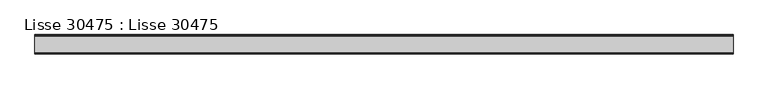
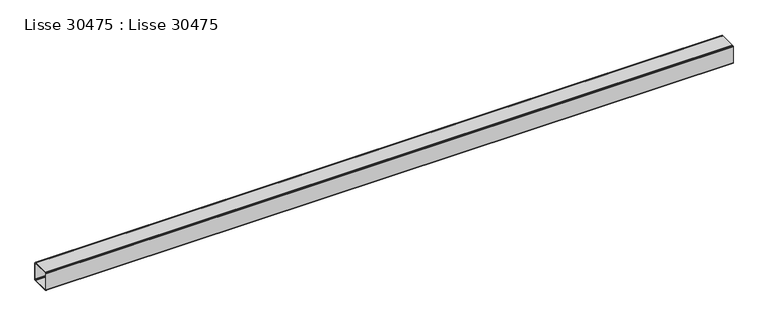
"""IFC4 building model written with IfcOpenShell, lengths in millimetres: beam geometry, Lisse 30475 : Lisse 30475."""

from ifc_helpers import new_model, si_unit, frame, origin, place, context, project, spatial, polyline, outline, extrude, source, transform, mapped, element, save


def lisse_30475_lisse_30475_9e5390a8(model_context):
    return source(origin(), model_context, "Body", "SweptSolid", [
        extrude(outline(polyline([(-19772.0, 8320.4153428), (-19684.0, 8320.4153428), (-19681.0, 8319.6114952), (-19678.8038476, 8317.4153428), (-19678.0, 8314.4153428), (-19678.0, 8226.4153428), (-19678.8038476, 8223.4153428), (-19681.0, 8221.2191903), (-19684.0, 8220.4153428), (-19772.0, 8220.4153428), (-19775.0, 8221.2191903), (-19777.1961524, 8223.4153428), (-19778.0, 8226.4153428), (-19778.0, 8314.4153428), (-19777.1961524, 8317.4153428), (-19775.0, 8319.6114952), (-19772.0, 8320.4153428)]), holes=[polyline([(-19774.0, 8312.4153428), (-19774.0, 8228.4153428), (-19773.4641016, 8226.4153428), (-19772.0, 8224.9512411), (-19770.0, 8224.4153428), (-19686.0, 8224.4153428), (-19684.0, 8224.9512411), (-19682.5358984, 8226.4153428), (-19682.0, 8228.4153428), (-19682.0, 8312.4153428), (-19682.5358984, 8314.4153428), (-19684.0, 8315.8794444), (-19686.0, 8316.4153428), (-19770.0, 8316.4153428), (-19772.0, 8315.8794444), (-19773.4641016, 8314.4153428), (-19774.0, 8312.4153428)])]), frame((24.9999999, 0.0, 0.0), z_axis=(1.0, 0.0, 0.0), x_axis=(0.0, 1.0, 0.0)), (0.0, 0.0, 1.0), 3612.5),
    ])


if __name__ == "__main__":
    model = new_model("IFC4")
    model_context = context("Model", 3, world=origin())
    ifc_project = project(units=[si_unit("LENGTHUNIT", "METRE", prefix="MILLI")], contexts=[model_context])
    site = spatial("IfcSite", under=ifc_project)
    building = spatial("IfcBuilding", under=site)
    placement = place(None, origin())
    lisse_30475_lisse_30475_shape = lisse_30475_lisse_30475_9e5390a8(model_context)
    element("IfcBeam", 1, ObjectType="Lisse 30475 : Lisse 30475", at=placement, inside=building, context=model_context, shape_type="MappedRepresentation", body=[
        mapped(lisse_30475_lisse_30475_shape, transform((0.0, 0.0, 0.0), x_axis=(1.0, 0.0, 0.0), y_axis=(0.0, 1.0, 0.0), z_axis=(0.0, 0.0, 1.0))),
    ])
    save(model, "model.ifc")
